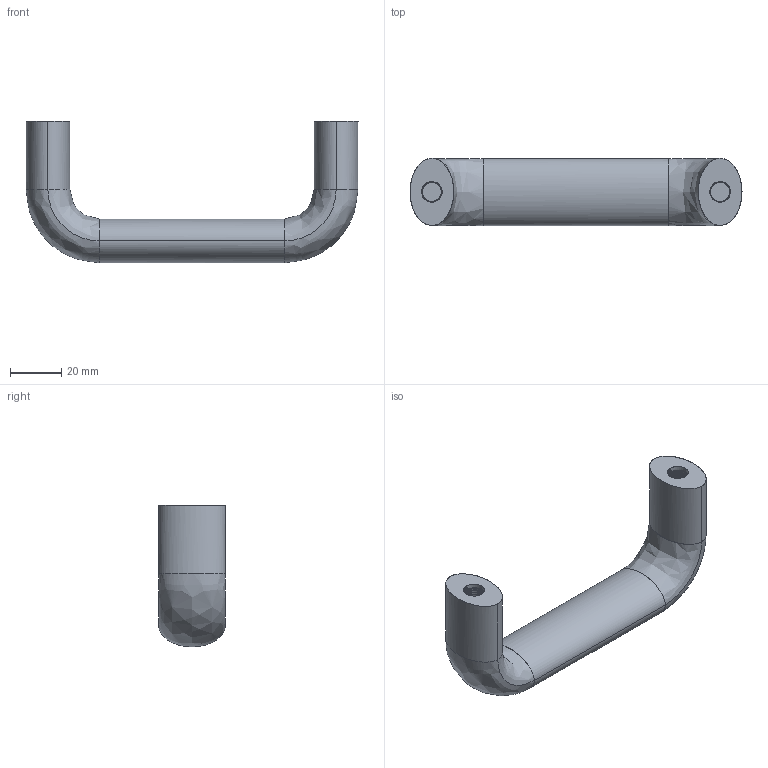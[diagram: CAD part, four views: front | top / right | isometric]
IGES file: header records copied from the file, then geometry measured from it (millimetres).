
Start section: SolidWorks IGES file using analytic representation for surfaces
Global section: file name: C:\Documents and Settings\Deathkiller\桌面\3D IGES\U型把手\MS-740\26\p=112.IGS; native system: SolidWorks 2006 by SolidWorks Corporation; preprocessor: SolidWorks 2006 by SolidWorks Corporation; author: Deathkiller; date: 080624.172319; units: millimetre
Bounding box: 129 x 26 x 54.99 mm (x, y, z)
Surface area: 14401.3 mm2 (no closed solid volume)
Topology: 0 solids, 0 shells, 71 faces, 1679 edges, 1679 vertices
Faces by surface type: revolution 47, bspline 24
